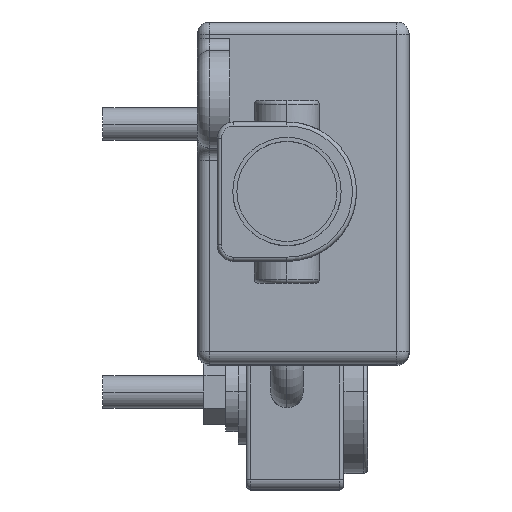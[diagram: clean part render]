
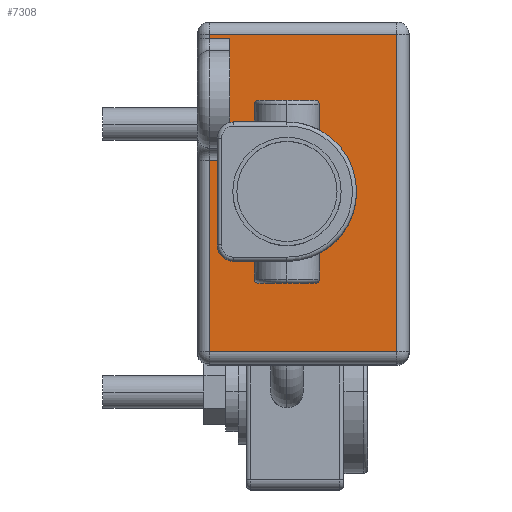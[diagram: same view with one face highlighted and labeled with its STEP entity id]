
A CAD part, top view. The second image highlights one B-rep face of the part: STEP entity #7308.
In plain terms, the highlighted planar face has unit normal (0, 0, 1).
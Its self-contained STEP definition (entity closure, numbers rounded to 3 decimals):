
#280 = FACE_BOUND ( 'NONE', #6649, .T. ) ;
#317 = CARTESIAN_POINT ( 'NONE',  ( 0., 0., -100. ) ) ;
#367 = CARTESIAN_POINT ( 'NONE',  ( 13.5, 19.5, -100. ) ) ;
#432 = EDGE_CURVE ( 'NONE', #6256, #10131, #6330, .T. ) ;
#437 = LINE ( 'NONE', #9554, #3985 ) ;
#1032 = PLANE ( 'NONE',  #1582 ) ;
#1254 = EDGE_CURVE ( 'NONE', #5883, #5234, #5465, .T. ) ;
#1298 = VECTOR ( 'NONE', #9626, 1000. ) ;
#1400 = CARTESIAN_POINT ( 'NONE',  ( -7., 4., -100. ) ) ;
#1491 = EDGE_CURVE ( 'NONE', #4922, #4186, #6059, .T. ) ;
#1582 = AXIS2_PLACEMENT_3D ( 'NONE', #3665, #9393, #4322 ) ;
#1729 = VECTOR ( 'NONE', #9266, 1000. ) ;
#1811 = EDGE_LOOP ( 'NONE', ( #8917, #9309, #8857, #2746, #8460, #9837, #6041, #4375 ) ) ;
#1870 = CARTESIAN_POINT ( 'NONE',  ( -9.5, 19.5, -100. ) ) ;
#1897 = EDGE_CURVE ( 'NONE', #6018, #8486, #5946, .T. ) ;
#2167 = DIRECTION ( 'NONE',  ( 0., 1., 0. ) ) ;
#2214 = DIRECTION ( 'NONE',  ( 0., -1., 0. ) ) ;
#2278 = VERTEX_POINT ( 'NONE', #1870 ) ;
#2593 = VECTOR ( 'NONE', #7590, 1000. ) ;
#2746 = ORIENTED_EDGE ( 'NONE', *, *, #8077, .F. ) ;
#3008 = CARTESIAN_POINT ( 'NONE',  ( -5.8, 0., -100. ) ) ;
#3241 = CARTESIAN_POINT ( 'NONE',  ( 13.5, 19.5, -100. ) ) ;
#3454 = CARTESIAN_POINT ( 'NONE',  ( 5.8, 0., -100. ) ) ;
#3615 = DIRECTION ( 'NONE',  ( -1., 0., 0. ) ) ;
#3665 = CARTESIAN_POINT ( 'NONE',  ( 0., 0., -100. ) ) ;
#3778 = CARTESIAN_POINT ( 'NONE',  ( -9.5, -19.5, -100. ) ) ;
#3897 = LINE ( 'NONE', #9572, #1298 ) ;
#3984 = DIRECTION ( 'NONE',  ( 1., 0., 0. ) ) ;
#3985 = VECTOR ( 'NONE', #2214, 1000. ) ;
#4186 = VERTEX_POINT ( 'NONE', #6363 ) ;
#4233 = CARTESIAN_POINT ( 'NONE',  ( -9.5, 19., -100. ) ) ;
#4315 = CARTESIAN_POINT ( 'NONE',  ( -7., 19., -100. ) ) ;
#4322 = DIRECTION ( 'NONE',  ( 0., 1., 0. ) ) ;
#4375 = ORIENTED_EDGE ( 'NONE', *, *, #1254, .F. ) ;
#4439 = ORIENTED_EDGE ( 'NONE', *, *, #8927, .T. ) ;
#4666 = EDGE_CURVE ( 'NONE', #4922, #8689, #437, .T. ) ;
#4922 = VERTEX_POINT ( 'NONE', #4315 ) ;
#5041 = LINE ( 'NONE', #4233, #2593 ) ;
#5101 = CARTESIAN_POINT ( 'NONE',  ( 13.5, 19.5, -100. ) ) ;
#5234 = VERTEX_POINT ( 'NONE', #8196 ) ;
#5343 = CARTESIAN_POINT ( 'NONE',  ( 0., 0., -100. ) ) ;
#5366 = ORIENTED_EDGE ( 'NONE', *, *, #432, .T. ) ;
#5465 = LINE ( 'NONE', #3778, #9543 ) ;
#5807 = AXIS2_PLACEMENT_3D ( 'NONE', #5343, #7025, #10410 ) ;
#5883 = VERTEX_POINT ( 'NONE', #7237 ) ;
#5946 = LINE ( 'NONE', #367, #6506 ) ;
#6002 = DIRECTION ( 'NONE',  ( 0., -1., 0. ) ) ;
#6018 = VERTEX_POINT ( 'NONE', #3241 ) ;
#6041 = ORIENTED_EDGE ( 'NONE', *, *, #10478, .F. ) ;
#6059 = LINE ( 'NONE', #6922, #6687 ) ;
#6256 = VERTEX_POINT ( 'NONE', #3008 ) ;
#6330 = CIRCLE ( 'NONE', #5807, 5.8 ) ;
#6363 = CARTESIAN_POINT ( 'NONE',  ( -9.5, 19., -100. ) ) ;
#6506 = VECTOR ( 'NONE', #6002, 1000. ) ;
#6649 = EDGE_LOOP ( 'NONE', ( #5366, #4439 ) ) ;
#6687 = VECTOR ( 'NONE', #3615, 1000. ) ;
#6721 = AXIS2_PLACEMENT_3D ( 'NONE', #317, #8416, #8521 ) ;
#6922 = CARTESIAN_POINT ( 'NONE',  ( -7., 19., -100. ) ) ;
#7025 = DIRECTION ( 'NONE',  ( 0., 0., -1. ) ) ;
#7237 = CARTESIAN_POINT ( 'NONE',  ( -9.5, -19.5, -100. ) ) ;
#7308 = ADVANCED_FACE ( 'NONE', ( #9344, #280 ), #1032, .F. ) ;
#7526 = VECTOR ( 'NONE', #3984, 1000. ) ;
#7590 = DIRECTION ( 'NONE',  ( 0., 1., 0. ) ) ;
#8077 = EDGE_CURVE ( 'NONE', #4186, #2278, #5041, .T. ) ;
#8078 = EDGE_CURVE ( 'NONE', #6018, #2278, #9955, .T. ) ;
#8089 = CARTESIAN_POINT ( 'NONE',  ( -9.5, 4., -100. ) ) ;
#8196 = CARTESIAN_POINT ( 'NONE',  ( -9.5, 4., -100. ) ) ;
#8338 = CARTESIAN_POINT ( 'NONE',  ( 13.5, -19.5, -100. ) ) ;
#8416 = DIRECTION ( 'NONE',  ( 0., 0., -1. ) ) ;
#8444 = CIRCLE ( 'NONE', #6721, 5.8 ) ;
#8460 = ORIENTED_EDGE ( 'NONE', *, *, #1491, .F. ) ;
#8486 = VERTEX_POINT ( 'NONE', #8338 ) ;
#8521 = DIRECTION ( 'NONE',  ( 1., 0., 0. ) ) ;
#8689 = VERTEX_POINT ( 'NONE', #1400 ) ;
#8857 = ORIENTED_EDGE ( 'NONE', *, *, #8078, .T. ) ;
#8917 = ORIENTED_EDGE ( 'NONE', *, *, #9314, .T. ) ;
#8927 = EDGE_CURVE ( 'NONE', #10131, #6256, #8444, .T. ) ;
#9266 = DIRECTION ( 'NONE',  ( -1., 0., 0. ) ) ;
#9309 = ORIENTED_EDGE ( 'NONE', *, *, #1897, .F. ) ;
#9314 = EDGE_CURVE ( 'NONE', #5883, #8486, #3897, .T. ) ;
#9344 = FACE_OUTER_BOUND ( 'NONE', #1811, .T. ) ;
#9393 = DIRECTION ( 'NONE',  ( 0., 0., -1. ) ) ;
#9543 = VECTOR ( 'NONE', #2167, 1000. ) ;
#9554 = CARTESIAN_POINT ( 'NONE',  ( -7., 19., -100. ) ) ;
#9572 = CARTESIAN_POINT ( 'NONE',  ( -9.5, -19.5, -100. ) ) ;
#9626 = DIRECTION ( 'NONE',  ( 1., 0., 0. ) ) ;
#9656 = LINE ( 'NONE', #8089, #7526 ) ;
#9837 = ORIENTED_EDGE ( 'NONE', *, *, #4666, .T. ) ;
#9955 = LINE ( 'NONE', #5101, #1729 ) ;
#10131 = VERTEX_POINT ( 'NONE', #3454 ) ;
#10410 = DIRECTION ( 'NONE',  ( -1., 0., 0. ) ) ;
#10478 = EDGE_CURVE ( 'NONE', #5234, #8689, #9656, .T. ) ;
